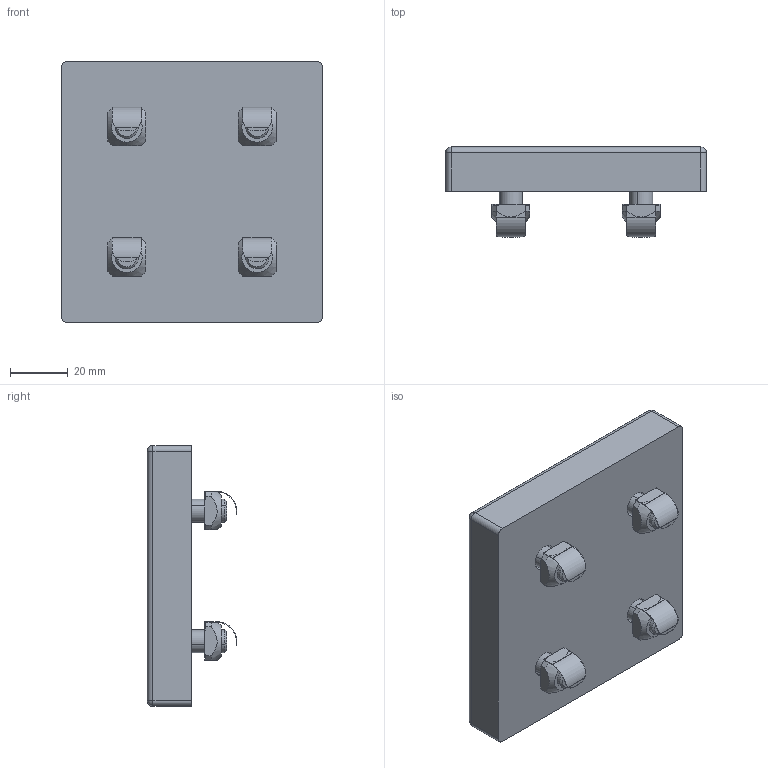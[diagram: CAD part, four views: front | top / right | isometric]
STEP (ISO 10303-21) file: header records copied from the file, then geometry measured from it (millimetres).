
FILE_DESCRIPTION (( 'STEP AP214' ), '1' );
FILE_NAME ('1.3038 Yhdistämislevy 90X90.STEP', '2025-09-08T09:03:19', ( '' ), ( '' ), 'SwSTEP 2.0', 'SolidWorks 2025', '' );
FILE_SCHEMA (( 'AUTOMOTIVE_DESIGN' ));
Length unit declared in the file: millimetre
Products named in the file (1): 1.3038 Yhdistämislevy 90X90
Bounding box: 90 x 30.95 x 90 mm (x, y, z)
Volume: 126770.9 mm3; surface area: 30490.2 mm2
Topology: 9 solids, 9 shells, 278 faces, 664 edges, 404 vertices
Faces by surface type: plane 158, cylinder 64, cone 36, torus 16, sphere 4
Entity records: 11469 total; most frequent: CARTESIAN_POINT 1899, DIRECTION 1346, ORIENTED_EDGE 1304, EDGE_CURVE 652, AXIS2_PLACEMENT_3D 491, VERTEX_POINT 404, VECTOR 364, LINE 364
